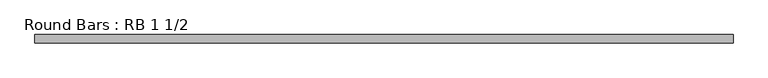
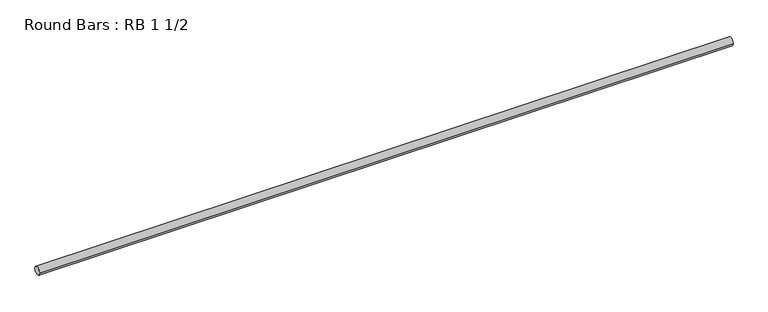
"""IFC4 building model written with IfcOpenShell, lengths in millimetres: member geometry, Round Bars : RB 1 1/2."""

from ifc_helpers import new_model, si_unit, point, frame, origin, origin_2d, place, context, project, spatial, circle_curve, trimmed, segment, composite_curve, outline, extrude, source, transform, mapped, element, save


def round_bars_rb_1_1_2_a895e5a3(model_context):
    return source(origin(), model_context, "Body", "SweptSolid", [
        extrude(outline(composite_curve([segment(trimmed(circle_curve(origin_2d(), 19.05), [point((19.05, 0.0))], [point((-19.05, 0.0))], False, "CARTESIAN"), True, "CONTINUOUS"), segment(trimmed(circle_curve(origin_2d(), 19.05), [point((-19.05, 0.0))], [point((19.05, 0.0))], False, "CARTESIAN"), True, "CONTINUOUS")], self_intersect=False)), frame((-1608.6969272, 0.0, 0.0), z_axis=(1.0, 0.0, 0.0), x_axis=(0.0, 1.0, 0.0)), (0.0, 0.0, 1.0), 3217.3938545),
    ])


if __name__ == "__main__":
    model = new_model("IFC4")
    model_context = context("Model", 3, world=origin())
    ifc_project = project(units=[si_unit("LENGTHUNIT", "METRE", prefix="MILLI")], contexts=[model_context])
    site = spatial("IfcSite", under=ifc_project)
    building = spatial("IfcBuilding", under=site)
    placement = place(None, origin())
    round_bars_rb_1_1_2_shape = round_bars_rb_1_1_2_a895e5a3(model_context)
    element("IfcMember", 1, ObjectType="Round Bars : RB 1 1/2", at=placement, inside=building, context=model_context, shape_type="MappedRepresentation", body=[
        mapped(round_bars_rb_1_1_2_shape, transform((0.0, 0.0, 0.0), x_axis=(1.0, 0.0, 0.0), y_axis=(0.0, 1.0, 0.0), z_axis=(0.0, 0.0, 1.0))),
    ])
    save(model, "model.ifc")
